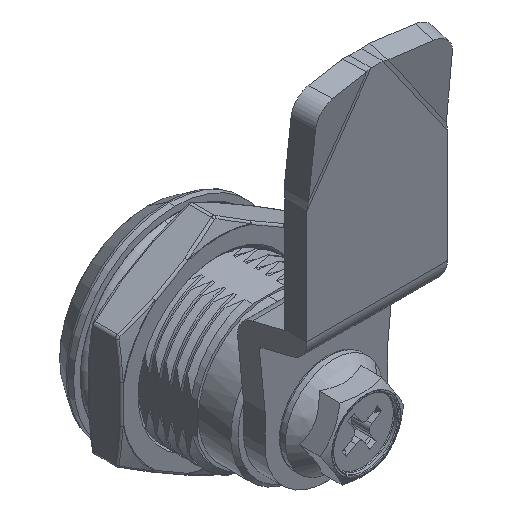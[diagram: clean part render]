
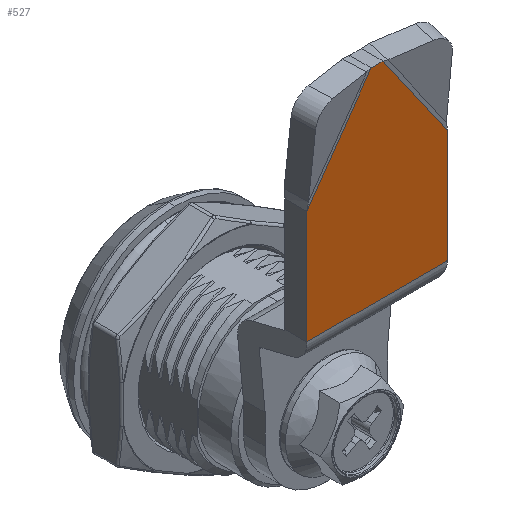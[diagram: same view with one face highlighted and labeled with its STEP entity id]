
A CAD part, isometric view. The second image highlights one B-rep face of the part: STEP entity #527.
In plain terms, the highlighted planar face has unit normal (0, -1, 0).
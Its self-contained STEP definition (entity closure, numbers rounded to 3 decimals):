
#527 = ADVANCED_FACE ( 'NONE', ( #22331 ), #10099, .T. ) ;
#1616 = DIRECTION ( 'NONE',  ( -1., 0., 0. ) ) ;
#4129 = CARTESIAN_POINT ( 'NONE',  ( 45., -3., 9.75 ) ) ;
#4473 = EDGE_CURVE ( 'NONE', #51320, #37450, #13354, .T. ) ;
#5294 = CARTESIAN_POINT ( 'NONE',  ( 16.621, -3., 9.75 ) ) ;
#5490 = CARTESIAN_POINT ( 'NONE',  ( 45., -3., 9.75 ) ) ;
#5875 = VECTOR ( 'NONE', #37594, 1000. ) ;
#6072 = ORIENTED_EDGE ( 'NONE', *, *, #42286, .T. ) ;
#6695 = VECTOR ( 'NONE', #1616, 1000. ) ;
#7248 = CARTESIAN_POINT ( 'NONE',  ( 45., -3., 0.824 ) ) ;
#10099 = PLANE ( 'NONE',  #27096 ) ;
#10754 = CARTESIAN_POINT ( 'NONE',  ( 49.968, -3., 2.655 ) ) ;
#11156 = EDGE_LOOP ( 'NONE', ( #33123, #47377, #26297, #6072, #11467, #46288 ) ) ;
#11467 = ORIENTED_EDGE ( 'NONE', *, *, #38551, .F. ) ;
#12116 = EDGE_CURVE ( 'NONE', #31162, #31194, #39242, .T. ) ;
#13188 = LINE ( 'NONE', #5294, #5875 ) ;
#13354 = LINE ( 'NONE', #17967, #17302 ) ;
#17302 = VECTOR ( 'NONE', #51051, 1000. ) ;
#17967 = CARTESIAN_POINT ( 'NONE',  ( 40.806, -3., 3.76 ) ) ;
#20237 = VECTOR ( 'NONE', #46849, 1000. ) ;
#20390 = LINE ( 'NONE', #30397, #6695 ) ;
#21031 = VERTEX_POINT ( 'NONE', #47220 ) ;
#21889 = DIRECTION ( 'NONE',  ( 0., 0., -1. ) ) ;
#22331 = FACE_OUTER_BOUND ( 'NONE', #11156, .T. ) ;
#25122 = VERTEX_POINT ( 'NONE', #31065 ) ;
#26297 = ORIENTED_EDGE ( 'NONE', *, *, #37625, .T. ) ;
#27096 = AXIS2_PLACEMENT_3D ( 'NONE', #5490, #51079, #30474 ) ;
#28590 = CARTESIAN_POINT ( 'NONE',  ( 32.252, -3., 9.75 ) ) ;
#30397 = CARTESIAN_POINT ( 'NONE',  ( 45., -3., -9.75 ) ) ;
#30474 = DIRECTION ( 'NONE',  ( 1., 0., 0. ) ) ;
#31065 = CARTESIAN_POINT ( 'NONE',  ( 16.621, -3., 9.75 ) ) ;
#31162 = VERTEX_POINT ( 'NONE', #32520 ) ;
#31194 = VERTEX_POINT ( 'NONE', #36304 ) ;
#32520 = CARTESIAN_POINT ( 'NONE',  ( 45., -3., -0.824 ) ) ;
#33123 = ORIENTED_EDGE ( 'NONE', *, *, #35061, .F. ) ;
#35061 = EDGE_CURVE ( 'NONE', #51320, #31162, #38148, .T. ) ;
#36304 = CARTESIAN_POINT ( 'NONE',  ( 32.252, -3., -9.75 ) ) ;
#36979 = LINE ( 'NONE', #4129, #51755 ) ;
#37450 = VERTEX_POINT ( 'NONE', #28590 ) ;
#37594 = DIRECTION ( 'NONE',  ( 0., 0., -1. ) ) ;
#37625 = EDGE_CURVE ( 'NONE', #37450, #25122, #36979, .T. ) ;
#38148 = LINE ( 'NONE', #38415, #53059 ) ;
#38415 = CARTESIAN_POINT ( 'NONE',  ( 45., -3., 9.75 ) ) ;
#38551 = EDGE_CURVE ( 'NONE', #31194, #21031, #20390, .T. ) ;
#39242 = LINE ( 'NONE', #10754, #20237 ) ;
#42286 = EDGE_CURVE ( 'NONE', #25122, #21031, #13188, .T. ) ;
#46288 = ORIENTED_EDGE ( 'NONE', *, *, #12116, .F. ) ;
#46849 = DIRECTION ( 'NONE',  ( -0.819, 0., -0.574 ) ) ;
#47220 = CARTESIAN_POINT ( 'NONE',  ( 16.621, -3., -9.75 ) ) ;
#47377 = ORIENTED_EDGE ( 'NONE', *, *, #4473, .T. ) ;
#51051 = DIRECTION ( 'NONE',  ( -0.819, 0., 0.574 ) ) ;
#51079 = DIRECTION ( 'NONE',  ( 0., -1., 0. ) ) ;
#51320 = VERTEX_POINT ( 'NONE', #7248 ) ;
#51755 = VECTOR ( 'NONE', #53538, 1000. ) ;
#53059 = VECTOR ( 'NONE', #21889, 1000. ) ;
#53538 = DIRECTION ( 'NONE',  ( -1., 0., 0. ) ) ;
